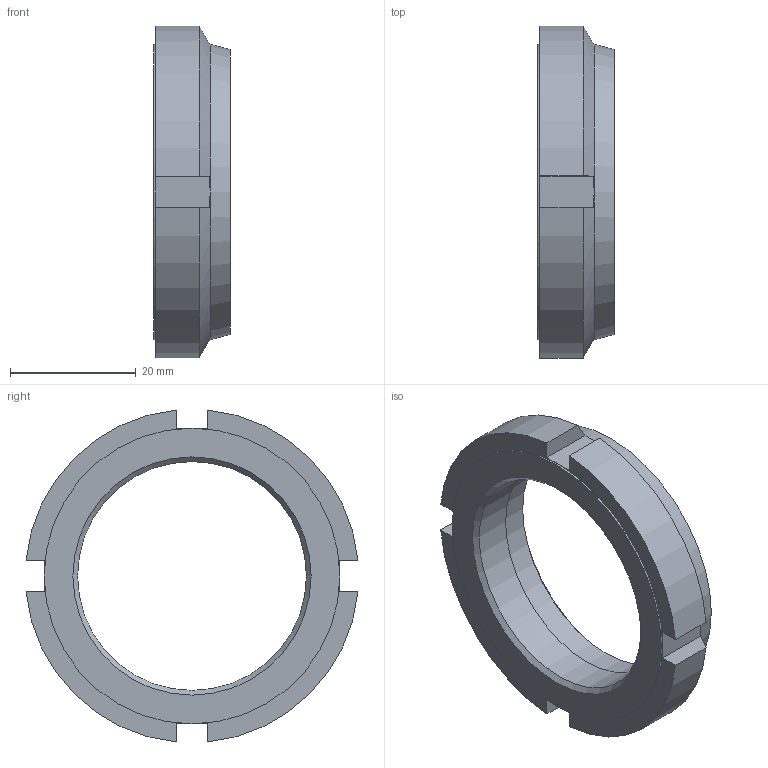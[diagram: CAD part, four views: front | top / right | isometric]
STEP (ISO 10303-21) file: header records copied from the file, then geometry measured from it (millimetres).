
FILE_DESCRIPTION( ( 'STEP AP203' ), '1' );
FILE_NAME( 'C:/Temp/Ganter_Step_05_03_2020/data/3_2/gn1804_1/Slotted locknut self-locking GN 1804.1-M38x1,5.stp', '2020-03-13T05:25:17', ( 'License CC BY-ND 4.0' ), ( 'CADENAS' ), ' ', 'PARTsolutions', ' ' );
FILE_SCHEMA( ( 'CONFIG_CONTROL_DESIGN' ) );
Length unit declared in the file: millimetre
Products named in the file (1): _Slotted locknut self-locking GN 1804.1-M38x1,5
Bounding box: 12.1 x 52.76 x 52.76 mm (x, y, z)
Volume: 10876.4 mm3; surface area: 5397.1 mm2
Topology: 1 solids, 1 shells, 34 faces, 79 edges, 49 vertices
Faces by surface type: plane 20, cylinder 8, cone 6
Full cylindrical faces by diameter (mm): 36.376 x1, 37.5 x1, 40 x1, 47 x1
Entity records: 1018 total; most frequent: CARTESIAN_POINT 229, DIRECTION 152, ORIENTED_EDGE 146, EDGE_CURVE 73, AXIS2_PLACEMENT_3D 60, VERTEX_POINT 49, EDGE_LOOP 44, FACE_OUTER_BOUND 38
